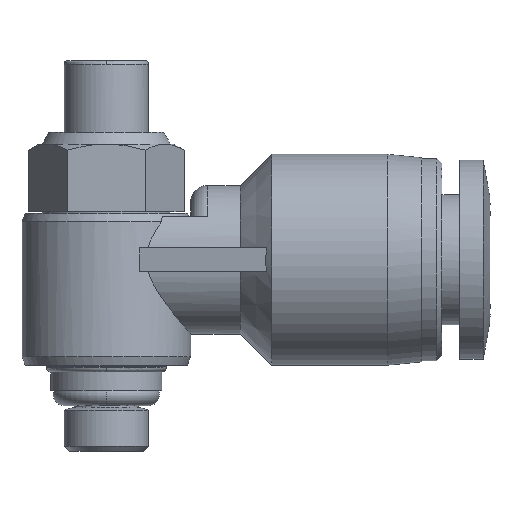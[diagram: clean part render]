
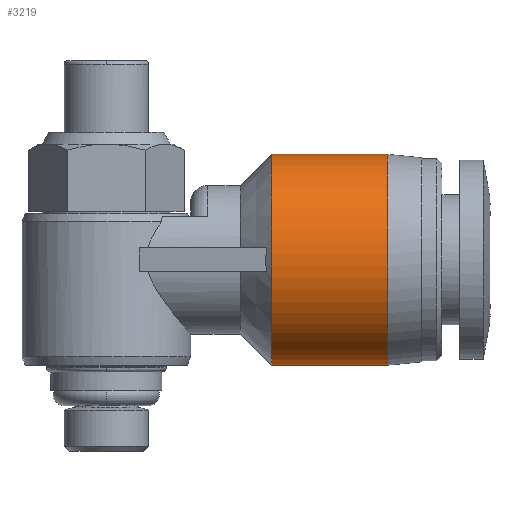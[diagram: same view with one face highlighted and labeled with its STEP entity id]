
A CAD part, top view. The second image highlights one B-rep face of the part: STEP entity #3219.
In plain terms, the highlighted cylindrical face has radius 6.25 mm (diameter 12.5 mm), a partial arc.
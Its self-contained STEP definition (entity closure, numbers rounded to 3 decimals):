
#71 = VERTEX_POINT ( 'NONE', #1269 ) ;
#288 = CARTESIAN_POINT ( 'NONE',  ( 9.8, 5.263, 1.636 ) ) ;
#318 = CARTESIAN_POINT ( 'NONE',  ( 9.8, 16.348, 3.841 ) ) ;
#466 = CARTESIAN_POINT ( 'NONE',  ( 16.7, 12.168, 6.25 ) ) ;
#490 = CARTESIAN_POINT ( 'NONE',  ( 16.7, 6.352, 3.841 ) ) ;
#518 = DIRECTION ( 'NONE',  ( -1., 0., 0. ) ) ;
#632 = CYLINDRICAL_SURFACE ( 'NONE', #2137, 6.25 ) ;
#774 = VECTOR ( 'NONE', #518, 1000. ) ;
#905 = ORIENTED_EDGE ( 'NONE', *, *, #3308, .F. ) ;
#1121 = CARTESIAN_POINT ( 'NONE',  ( 9.8, 5.1, 0.818 ) ) ;
#1177 = CARTESIAN_POINT ( 'NONE',  ( 9.8, 17.6, 0.818 ) ) ;
#1269 = CARTESIAN_POINT ( 'NONE',  ( 16.7, 17.6, 0. ) ) ;
#1319 = LINE ( 'NONE', #2952, #2240 ) ;
#1352 = B_SPLINE_CURVE_WITH_KNOTS ( 'NONE', 3,
 ( #4348, #4371, #1814, #1731, #490, #5257, #1756, #3443, #1355, #466, #2610, #3553, #4849, #5283, #4742, #3926, #5229, #2207 ),
 .UNSPECIFIED., .F., .F.,
 ( 4, 2, 2, 2, 2, 2, 2, 2, 4 ),
 ( 0., 0.063, 0.125, 0.188, 0.25, 0.313, 0.375, 0.438, 0.5 ),
 .UNSPECIFIED. ) ;
#1355 = CARTESIAN_POINT ( 'NONE',  ( 16.7, 10.532, 6.25 ) ) ;
#1465 = CARTESIAN_POINT ( 'NONE',  ( 13.25, 11.35, 0. ) ) ;
#1731 = CARTESIAN_POINT ( 'NONE',  ( 16.7, 5.889, 3.148 ) ) ;
#1756 = CARTESIAN_POINT ( 'NONE',  ( 16.7, 8.202, 5.461 ) ) ;
#1814 = CARTESIAN_POINT ( 'NONE',  ( 16.7, 5.263, 1.636 ) ) ;
#2038 = CARTESIAN_POINT ( 'NONE',  ( 9.8, 5.889, 3.148 ) ) ;
#2065 = CARTESIAN_POINT ( 'NONE',  ( 9.8, 12.168, 6.25 ) ) ;
#2137 = AXIS2_PLACEMENT_3D ( 'NONE', #1465, #3266, #4935 ) ;
#2207 = CARTESIAN_POINT ( 'NONE',  ( 16.7, 17.6, 0. ) ) ;
#2240 = VECTOR ( 'NONE', #3831, 1000. ) ;
#2487 = CARTESIAN_POINT ( 'NONE',  ( 9.8, 17.6, 0. ) ) ;
#2610 = CARTESIAN_POINT ( 'NONE',  ( 16.7, 12.986, 6.087 ) ) ;
#2722 = LINE ( 'NONE', #4535, #774 ) ;
#2863 = CARTESIAN_POINT ( 'NONE',  ( 9.8, 6.352, 3.841 ) ) ;
#2920 = CARTESIAN_POINT ( 'NONE',  ( 9.8, 14.498, 5.461 ) ) ;
#2940 = VERTEX_POINT ( 'NONE', #4077 ) ;
#2952 = CARTESIAN_POINT ( 'NONE',  ( 13.25, 17.6, 0. ) ) ;
#3076 = CARTESIAN_POINT ( 'NONE',  ( 9.8, 17.6, 0. ) ) ;
#3104 = EDGE_CURVE ( 'NONE', #3673, #71, #1352, .T. ) ;
#3151 = FACE_OUTER_BOUND ( 'NONE', #4633, .T. ) ;
#3197 = EDGE_CURVE ( 'NONE', #3673, #2940, #2722, .T. ) ;
#3219 = ADVANCED_FACE ( 'NONE', ( #3151 ), #632, .T. ) ;
#3266 = DIRECTION ( 'NONE',  ( -1., 0., 0. ) ) ;
#3308 = EDGE_CURVE ( 'NONE', #2940, #4748, #5025, .T. ) ;
#3347 = CARTESIAN_POINT ( 'NONE',  ( 9.8, 16.811, 3.148 ) ) ;
#3443 = CARTESIAN_POINT ( 'NONE',  ( 16.7, 9.714, 6.087 ) ) ;
#3553 = CARTESIAN_POINT ( 'NONE',  ( 16.7, 14.498, 5.461 ) ) ;
#3673 = VERTEX_POINT ( 'NONE', #4315 ) ;
#3720 = CARTESIAN_POINT ( 'NONE',  ( 9.8, 7.509, 4.998 ) ) ;
#3771 = CARTESIAN_POINT ( 'NONE',  ( 9.8, 8.202, 5.461 ) ) ;
#3814 = ORIENTED_EDGE ( 'NONE', *, *, #3104, .T. ) ;
#3831 = DIRECTION ( 'NONE',  ( -1., 0., 0. ) ) ;
#3926 = CARTESIAN_POINT ( 'NONE',  ( 16.7, 17.437, 1.636 ) ) ;
#4077 = CARTESIAN_POINT ( 'NONE',  ( 9.8, 5.1, 0. ) ) ;
#4147 = CARTESIAN_POINT ( 'NONE',  ( 9.8, 9.714, 6.087 ) ) ;
#4183 = ORIENTED_EDGE ( 'NONE', *, *, #3197, .F. ) ;
#4315 = CARTESIAN_POINT ( 'NONE',  ( 16.7, 5.1, 0. ) ) ;
#4348 = CARTESIAN_POINT ( 'NONE',  ( 16.7, 5.1, 0. ) ) ;
#4371 = CARTESIAN_POINT ( 'NONE',  ( 16.7, 5.1, 0.818 ) ) ;
#4535 = CARTESIAN_POINT ( 'NONE',  ( 13.25, 5.1, 0. ) ) ;
#4633 = EDGE_LOOP ( 'NONE', ( #3814, #4777, #905, #4183 ) ) ;
#4680 = CARTESIAN_POINT ( 'NONE',  ( 9.8, 10.532, 6.25 ) ) ;
#4742 = CARTESIAN_POINT ( 'NONE',  ( 16.7, 16.811, 3.148 ) ) ;
#4748 = VERTEX_POINT ( 'NONE', #3076 ) ;
#4777 = ORIENTED_EDGE ( 'NONE', *, *, #5470, .T. ) ;
#4849 = CARTESIAN_POINT ( 'NONE',  ( 16.7, 15.191, 4.998 ) ) ;
#4935 = DIRECTION ( 'NONE',  ( 0., -1., 0. ) ) ;
#5025 = B_SPLINE_CURVE_WITH_KNOTS ( 'NONE', 3,
 ( #5570, #1121, #288, #2038, #2863, #3720, #3771, #4147, #4680, #2065, #5457, #2920, #5516, #318, #3347, #5082, #1177, #2487 ),
 .UNSPECIFIED., .F., .F.,
 ( 4, 2, 2, 2, 2, 2, 2, 2, 4 ),
 ( 0., 0.062, 0.125, 0.187, 0.25, 0.312, 0.375, 0.437, 0.5 ),
 .UNSPECIFIED. ) ;
#5082 = CARTESIAN_POINT ( 'NONE',  ( 9.8, 17.437, 1.636 ) ) ;
#5229 = CARTESIAN_POINT ( 'NONE',  ( 16.7, 17.6, 0.818 ) ) ;
#5257 = CARTESIAN_POINT ( 'NONE',  ( 16.7, 7.509, 4.998 ) ) ;
#5283 = CARTESIAN_POINT ( 'NONE',  ( 16.7, 16.348, 3.841 ) ) ;
#5457 = CARTESIAN_POINT ( 'NONE',  ( 9.8, 12.986, 6.087 ) ) ;
#5470 = EDGE_CURVE ( 'NONE', #71, #4748, #1319, .T. ) ;
#5516 = CARTESIAN_POINT ( 'NONE',  ( 9.8, 15.191, 4.998 ) ) ;
#5570 = CARTESIAN_POINT ( 'NONE',  ( 9.8, 5.1, 0. ) ) ;
